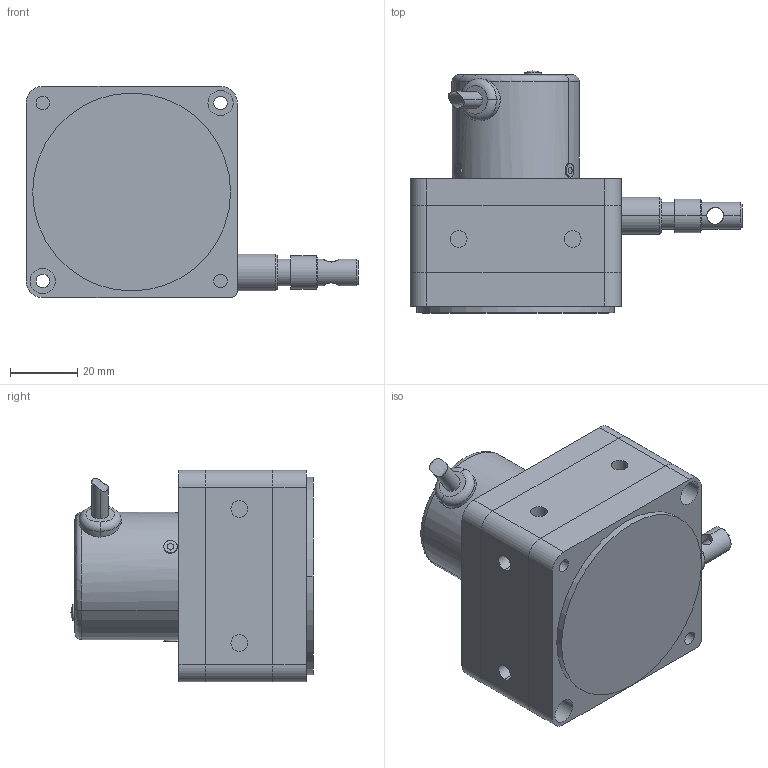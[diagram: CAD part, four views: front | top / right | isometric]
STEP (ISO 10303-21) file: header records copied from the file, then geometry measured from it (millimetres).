
FILE_DESCRIPTION(/* description */ (''),/* implementation_level */ '2;1');
FILE_NAME(/* name */ 'BRT38-拉线传感器_2m 3D模型_step.stp',/* time_stamp */ '2023-08-29T10:13:33+08:00',/* author */ (''),/* organization */ (''),/* preprocessor_version */ 'ST-DEVELOPER v16.7',/* originating_system */ 'SIEMENS PLM Software NX 12.0',/* authorisation */ '');
FILE_SCHEMA (('AP203_CONFIGURATION_CONTROLLED_3D_DESIGN_OF_MECHANICAL_PARTS_AND_ASSEMBLIES_MIM_LF { 1 0 10303 403 2 1 2}'));
Length unit declared in the file: millimetre
Products named in the file (1): 290156BC952C4r54
Bounding box: 99 x 72.2 x 63 mm (x, y, z)
Volume: 194828.7 mm3; surface area: 46638.2 mm2
Topology: 7 solids, 8 shells, 212 faces, 509 edges, 328 vertices
Faces by surface type: cylinder 107, plane 61, bspline 19, cone 16, torus 8, sphere 1
Full cylindrical faces by diameter (mm): 5 x2
Entity records: 8391 total; most frequent: CARTESIAN_POINT 3386, DIRECTION 1027, ORIENTED_EDGE 990, EDGE_CURVE 495, AXIS2_PLACEMENT_3D 419, VERTEX_POINT 326, EDGE_LOOP 264, CIRCLE 225
